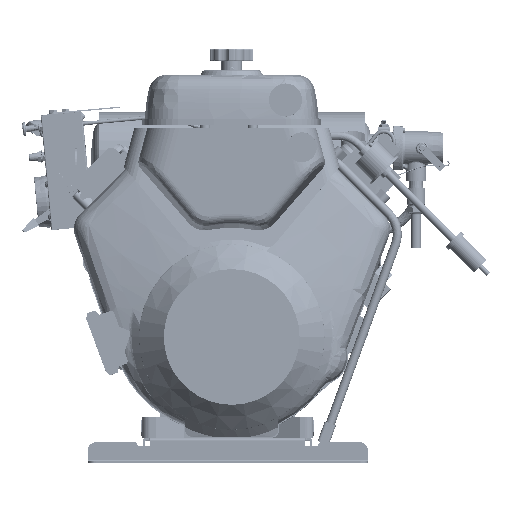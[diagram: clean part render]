
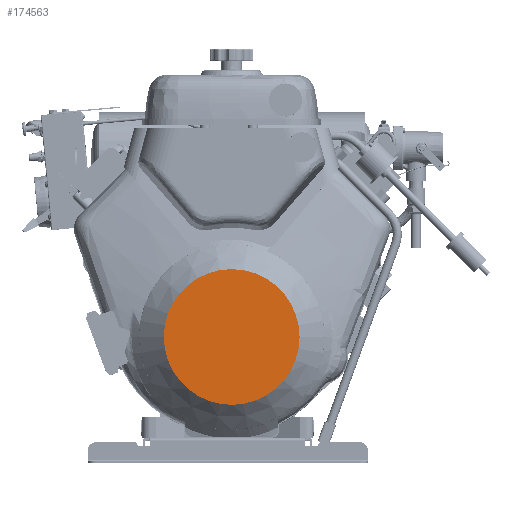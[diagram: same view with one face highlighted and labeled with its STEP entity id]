
A CAD part, top view. The second image highlights one B-rep face of the part: STEP entity #174563.
In plain terms, the highlighted planar face has unit normal (0, 0, 1).
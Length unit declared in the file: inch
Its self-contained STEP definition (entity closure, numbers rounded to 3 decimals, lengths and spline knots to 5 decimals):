
#16419 = EDGE_CURVE ( 'NONE', #366039, #471760, #205912, .T. ) ;
#17197 = FACE_OUTER_BOUND ( 'NONE', #259946, .T. ) ;
#58285 = ORIENTED_EDGE ( 'NONE', *, *, #69495, .F. ) ;
#69495 = EDGE_CURVE ( 'NONE', #366039, #471760, #340349, .T. ) ;
#69833 = DIRECTION ( 'NONE',  ( 0., 0., -1. ) ) ;
#70729 = PLANE ( 'NONE',  #179200 ) ;
#131155 = DIRECTION ( 'NONE',  ( 0., 0., 1. ) ) ;
#132367 = ORIENTED_EDGE ( 'NONE', *, *, #16419, .T. ) ;
#136655 = AXIS2_PLACEMENT_3D ( 'NONE', #364942, #131155, #431490 ) ;
#174563 = ADVANCED_FACE ( 'NONE', ( #17197 ), #70729, .F. ) ;
#179200 = AXIS2_PLACEMENT_3D ( 'NONE', #495678, #300931, #236117 ) ;
#205912 = CIRCLE ( 'NONE', #136655, 4.1167 ) ;
#236117 = DIRECTION ( 'NONE',  ( 0., -1., 0. ) ) ;
#250944 = CARTESIAN_POINT ( 'NONE',  ( -4.1167, 0., 15.87795 ) ) ;
#254089 = CARTESIAN_POINT ( 'NONE',  ( 4.1167, 0., 15.87795 ) ) ;
#255838 = CARTESIAN_POINT ( 'NONE',  ( 0., 0., 15.87795 ) ) ;
#259946 = EDGE_LOOP ( 'NONE', ( #58285, #132367 ) ) ;
#300931 = DIRECTION ( 'NONE',  ( 0., 0., -1. ) ) ;
#340349 = CIRCLE ( 'NONE', #411928, 4.1167 ) ;
#364942 = CARTESIAN_POINT ( 'NONE',  ( 0., 0., 15.87795 ) ) ;
#366039 = VERTEX_POINT ( 'NONE', #254089 ) ;
#411928 = AXIS2_PLACEMENT_3D ( 'NONE', #255838, #69833, #499800 ) ;
#431490 = DIRECTION ( 'NONE',  ( 1., 0., 0. ) ) ;
#471760 = VERTEX_POINT ( 'NONE', #250944 ) ;
#495678 = CARTESIAN_POINT ( 'NONE',  ( 0., 0., 15.87795 ) ) ;
#499800 = DIRECTION ( 'NONE',  ( 1., 0., 0. ) ) ;
